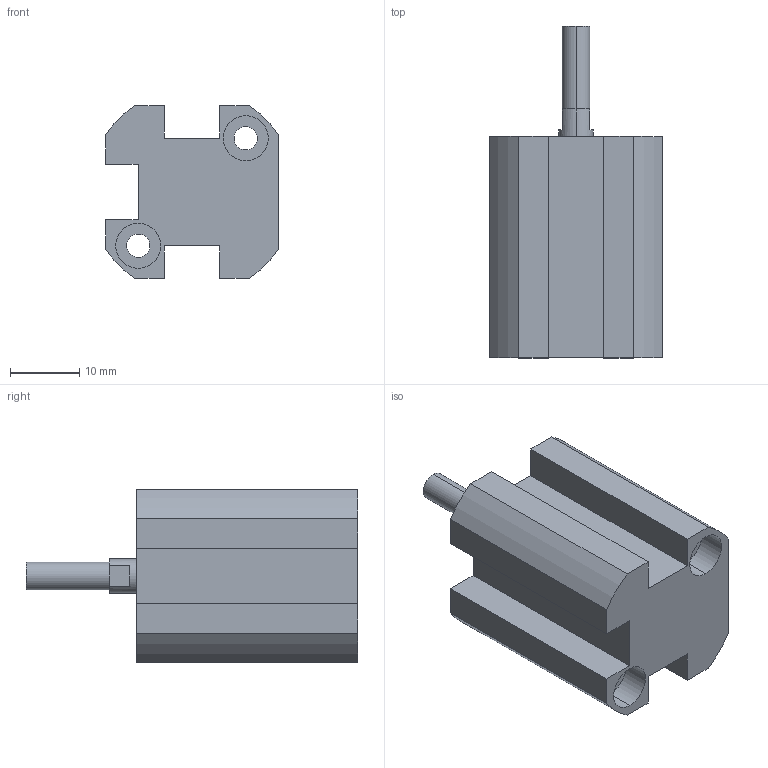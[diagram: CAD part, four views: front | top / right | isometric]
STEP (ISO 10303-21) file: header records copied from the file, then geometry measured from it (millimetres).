
FILE_DESCRIPTION (( 'STEP AP203' ), '1' );
FILE_NAME ('XC#M2-10D-10.STEP', '2016-05-23T08:42:17', ( '' ), ( '' ), 'SwSTEP 2.0', 'SolidWorks 2014', '' );
FILE_SCHEMA (( 'CONFIG_CONTROL_DESIGN' ));
Length unit declared in the file: millimetre
Products named in the file (1): XC#M2-10D-10
Bounding box: 25 x 48 x 25 mm (x, y, z)
Volume: 14127.3 mm3; surface area: 6247.8 mm2
Topology: 1 solids, 1 shells, 77 faces, 191 edges, 123 vertices
Faces by surface type: cylinder 39, plane 34, cone 4
Entity records: 2371 total; most frequent: DIRECTION 428, CARTESIAN_POINT 388, ORIENTED_EDGE 374, EDGE_CURVE 187, AXIS2_PLACEMENT_3D 163, VERTEX_POINT 123, VECTOR 102, LINE 102
